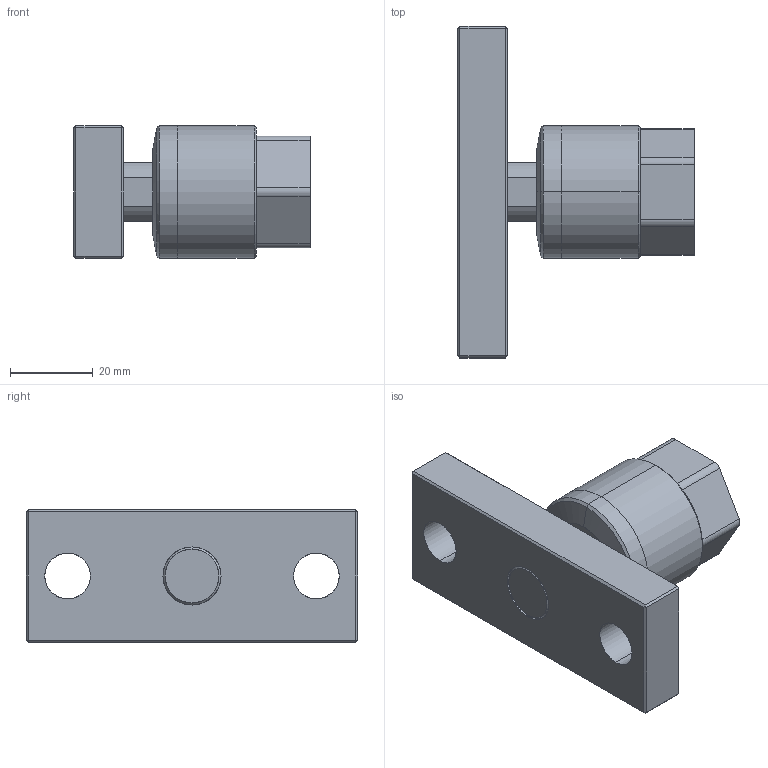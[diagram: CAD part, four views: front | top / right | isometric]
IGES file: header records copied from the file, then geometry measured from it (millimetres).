
Start section: SolidWorks IGES file using analytic representation for surfaces
Global section: file name: C:\Users\Toshiba\Desktop\FCM14A-1.5-F.IGS; native system: SolidWorks 2014; preprocessor: SolidWorks 2014; author: Toshiba; date: 160414.095811; units: millimetre
Bounding box: 57 x 80 x 32 mm (x, y, z)
Surface area: 15075.1 mm2 (no closed solid volume)
Topology: 0 solids, 0 shells, 78 faces, 766 edges, 764 vertices
Faces by surface type: bspline 44, revolution 34
